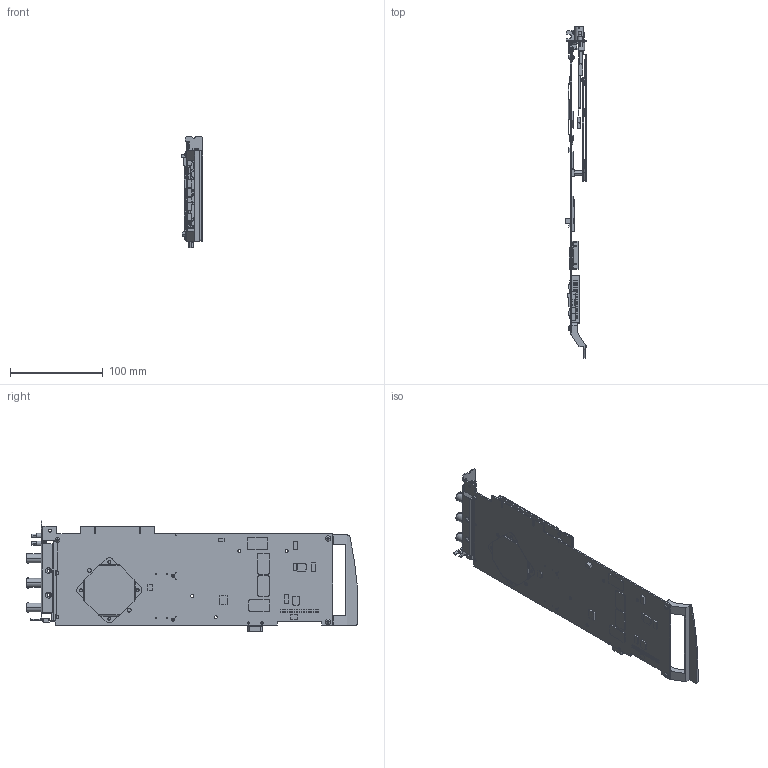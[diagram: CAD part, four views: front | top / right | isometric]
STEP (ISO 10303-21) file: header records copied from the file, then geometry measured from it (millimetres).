
FILE_DESCRIPTION((''),'2;1');
FILE_NAME('CD_PCI-515X','2009-12-15T',('jjorden'),(''),'PRO/ENGINEER BY PARAMETRIC TECHNOLOGY CORPORATION, 2006080','PRO/ENGINEER BY PARAMETRIC TECHNOLOGY CORPORATION, 2006080','');
FILE_SCHEMA(('CONFIG_CONTROL_DESIGN'));
Products named in the file (1): CD_PCI-515X
Bounding box: 23.09 x 357 x 119.99 mm (x, y, z)
Volume: 102408.7 mm3; surface area: 149475.6 mm2
Topology: 5 solids, 5 shells, 3260 faces, 8441 edges, 5280 vertices
Faces by surface type: plane 2439, cylinder 594, bspline 121, torus 48, cone 34, sphere 24
Entity records: 105779 total; most frequent: CARTESIAN_POINT 26160, ORIENTED_EDGE 16762, DIRECTION 15678, EDGE_CURVE 8381, VECTOR 6720, LINE 6720, VERTEX_POINT 5356, AXIS2_PLACEMENT_3D 4479
